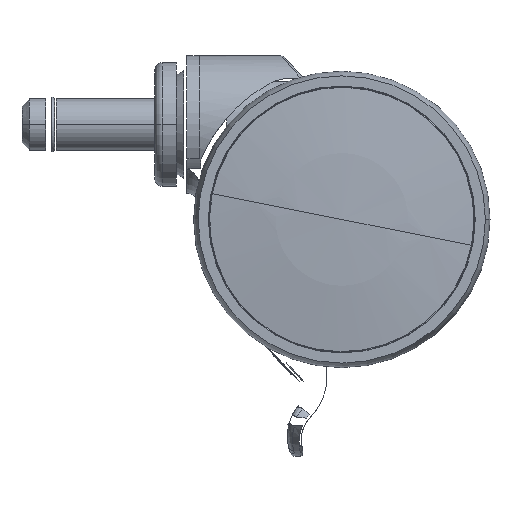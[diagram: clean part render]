
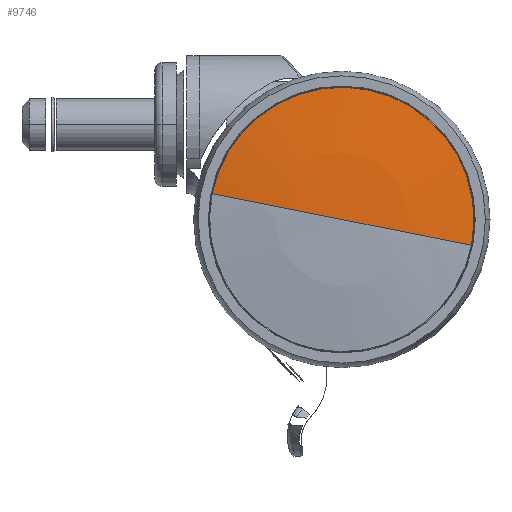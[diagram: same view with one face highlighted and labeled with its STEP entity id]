
A CAD part, left-side view. The second image highlights one B-rep face of the part: STEP entity #9746.
In plain terms, the highlighted spherical face has radius 417.771 mm.
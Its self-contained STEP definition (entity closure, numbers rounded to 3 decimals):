
#9674=CARTESIAN_POINT('',(-42.523,0.,0.));
#9675=DIRECTION('',(-1.,0.,0.));
#9676=DIRECTION('',(0.,-0.981,-0.195));
#9677=AXIS2_PLACEMENT_3D('',#9674,#9675,#9676);
#9679=CARTESIAN_POINT('',(371.521,0.,0.));
#9680=DIRECTION('',(0.,0.195,-0.981));
#9681=DIRECTION('',(-0.991,-0.131,-0.026));
#9682=AXIS2_PLACEMENT_3D('',#9679,#9680,#9681);
#9684=CARTESIAN_POINT('',(371.521,0.,0.));
#9685=DIRECTION('',(0.,-0.195,0.981));
#9686=DIRECTION('',(-0.991,0.131,0.026));
#9687=AXIS2_PLACEMENT_3D('',#9684,#9685,#9686);
#9704=CARTESIAN_POINT('',(-42.523,-54.607,
-10.862));
#9705=CARTESIAN_POINT('',(-42.523,54.607,10.862));
#9706=VERTEX_POINT('',#9704);
#9707=VERTEX_POINT('',#9705);
#9712=CARTESIAN_POINT('',(-46.25,0.,0.));
#9713=VERTEX_POINT('',#9712);
#9735=CARTESIAN_POINT('',(371.521,0.,0.));
#9736=DIRECTION('',(1.,0.,0.));
#9737=DIRECTION('',(0.,0.981,0.195));
#9738=AXIS2_PLACEMENT_3D('',#9735,#9736,#9737);
#9739=SPHERICAL_SURFACE('',#9738,417.771);
#9741=ORIENTED_EDGE('',*,*,#9740,.F.);
#9742=ORIENTED_EDGE('',*,*,#9723,.T.);
#9743=ORIENTED_EDGE('',*,*,#9721,.F.);
#9744=EDGE_LOOP('',(#9741,#9742,#9743));
#9745=FACE_OUTER_BOUND('',#9744,.F.);
#9678=CIRCLE('',#9677,55.677);
#9683=CIRCLE('',#9682,417.771);
#9688=CIRCLE('',#9687,417.771);
#9721=EDGE_CURVE('',#9707,#9713,#9688,.T.);
#9723=EDGE_CURVE('',#9706,#9713,#9683,.T.);
#9740=EDGE_CURVE('',#9706,#9707,#9678,.T.);
#9746=ADVANCED_FACE('',(#9745),#9739,.T.);
